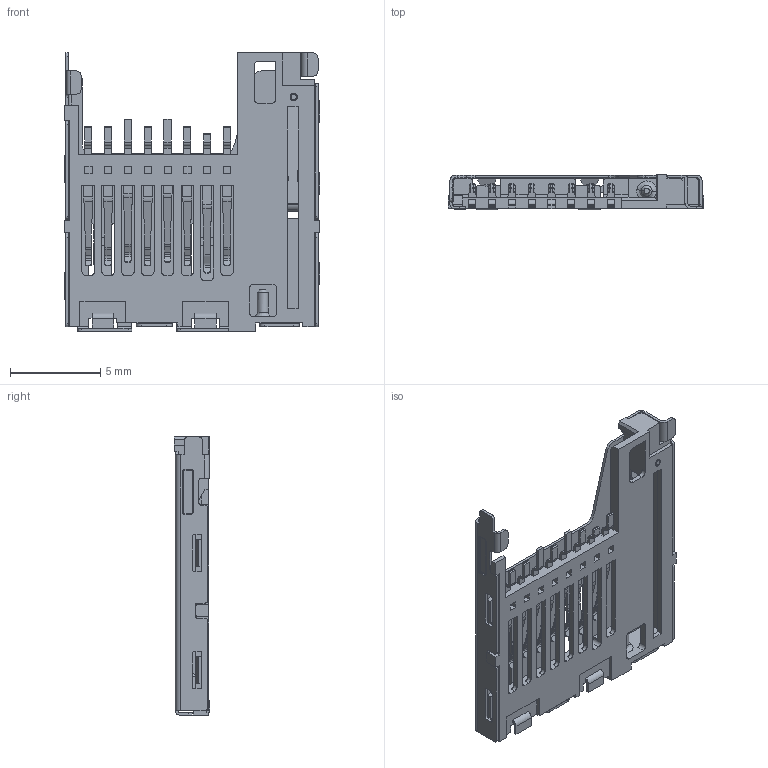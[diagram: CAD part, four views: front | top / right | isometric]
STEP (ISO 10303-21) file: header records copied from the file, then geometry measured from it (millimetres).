
FILE_DESCRIPTION(('STEP AP214'),'1');
FILE_NAME('MEM2061-01-188-00-A.stp.stp','2025-12-22T16:42:20',(' '),(' '),'Spatial InterOp 3D',' ',' ');
FILE_SCHEMA(('AUTOMOTIVE_DESIGN { 1 0 10303 214 1 1 1 1 }'));
Length unit declared in the file: millimetre
Products named in the file (3): MEM2061-01-188-00-A; MEM2061-01-188-00-A_PART1; MEM2061-01-188-00-A_PART2
Assembly tree (2 placements, depth 2):
  MEM2061-01-188-00-A
    MEM2061-01-188-00-A_PART1
    MEM2061-01-188-00-A_PART2
Bounding box: 14.2 x 1.95 x 15.45 mm (x, y, z)
Volume: 99.5 mm3; surface area: 866.2 mm2
Topology: 2 solids, 2 shells, 1152 faces, 3172 edges, 2010 vertices
Faces by surface type: plane 692, cylinder 377, bspline 76, cone 7
Entity records: 46742 total; most frequent: CARTESIAN_POINT 8193, ORIENTED_EDGE 6278, DIRECTION 5963, EDGE_CURVE 3139, LINE 2223, VECTOR 2223, VERTEX_POINT 2010, AXIS2_PLACEMENT_3D 1870
